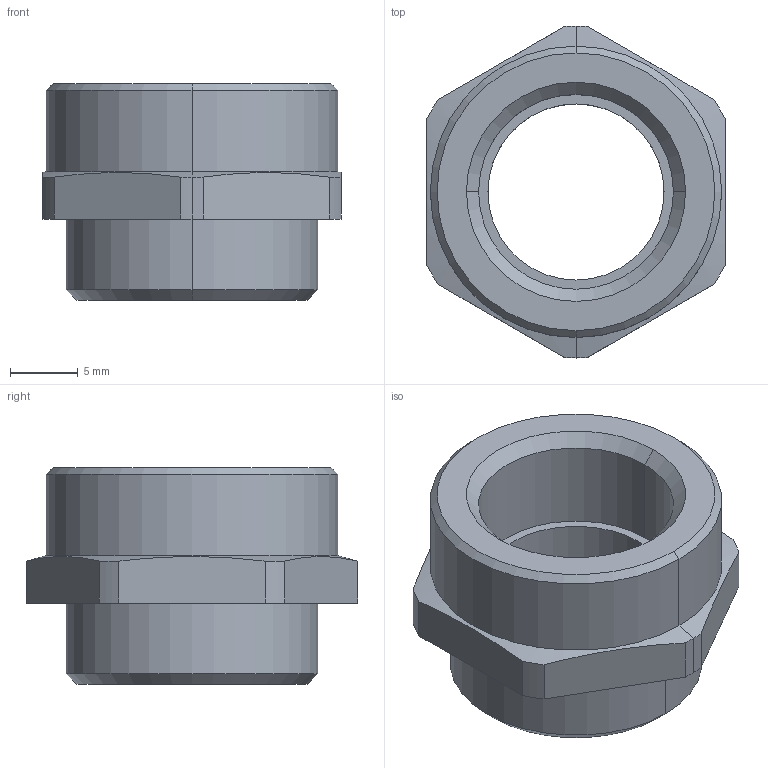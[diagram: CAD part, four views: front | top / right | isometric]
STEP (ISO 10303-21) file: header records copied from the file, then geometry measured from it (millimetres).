
FILE_DESCRIPTION (( 'STEP AP203' ), '1' );
FILE_NAME ('PG11M16.STEP', '2006-05-23T06:27:38', ( ' ' ), ( '' ), 'SwSTEP 2.0', 'SolidWorks 2005278', '' );
FILE_SCHEMA (( 'CONFIG_CONTROL_DESIGN' ));
Length unit declared in the file: millimetre
Products named in the file (1): PG11M16
Bounding box: 22 x 24.5 x 16 mm (x, y, z)
Volume: 3045 mm3; surface area: 2211.9 mm2
Topology: 1 solids, 1 shells, 72 faces, 184 edges, 119 vertices
Faces by surface type: plane 47, cylinder 15, cone 10
Entity records: 2258 total; most frequent: CARTESIAN_POINT 406, ORIENTED_EDGE 368, DIRECTION 363, EDGE_CURVE 184, VECTOR 139, LINE 139, VERTEX_POINT 119, AXIS2_PLACEMENT_3D 112
